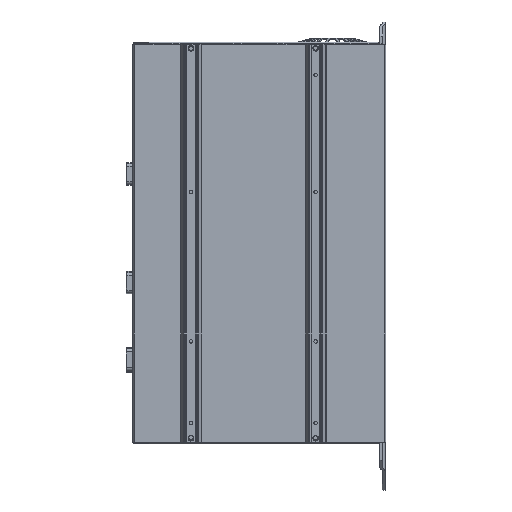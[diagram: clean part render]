
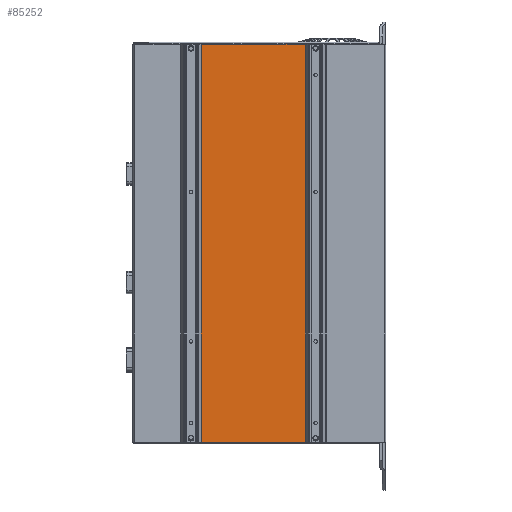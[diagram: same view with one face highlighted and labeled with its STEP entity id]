
A CAD part, front view. The second image highlights one B-rep face of the part: STEP entity #85252.
In plain terms, the highlighted planar face has unit normal (0, -1, 0).
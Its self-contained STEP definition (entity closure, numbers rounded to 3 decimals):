
#36856 = VERTEX_POINT ( 'NONE', #51932 ) ;
#36858 = VERTEX_POINT ( 'NONE', #51934 ) ;
#51932 = CARTESIAN_POINT ( 'NONE',  ( 135.597, 0., -143.7 ) ) ;
#51934 = CARTESIAN_POINT ( 'NONE',  ( 60.686, 0., -143.7 ) ) ;
#74835 = AXIS2_PLACEMENT_3D ( 'NONE', #111276, #111277, #111278 ) ;
#85252 = ADVANCED_FACE ( 'NONE', ( #96149 ), #111275, .F. ) ;
#91083 = EDGE_CURVE ( 'NONE', #36858, #36856, #97529, .T. ) ;
#91269 = EDGE_CURVE ( 'NONE', #36856, #100699, #144303, .T. ) ;
#91270 = EDGE_CURVE ( 'NONE', #100701, #100699, #144305, .T. ) ;
#91271 = EDGE_CURVE ( 'NONE', #100701, #36858, #144307, .T. ) ;
#94729 = EDGE_LOOP ( 'NONE', ( #109189, #109191, #109193, #109195 ) ) ;
#96149 = FACE_OUTER_BOUND ( 'NONE', #94729, .T. ) ;
#97529 = LINE ( 'NONE', #142484, #97537 ) ;
#97537 = VECTOR ( 'NONE', #142485, 1000. ) ;
#100699 = VERTEX_POINT ( 'NONE', #161949 ) ;
#100701 = VERTEX_POINT ( 'NONE', #161951 ) ;
#109189 = ORIENTED_EDGE ( 'NONE', *, *, #91083, .T. ) ;
#109191 = ORIENTED_EDGE ( 'NONE', *, *, #91269, .T. ) ;
#109193 = ORIENTED_EDGE ( 'NONE', *, *, #91270, .F. ) ;
#109195 = ORIENTED_EDGE ( 'NONE', *, *, #91271, .T. ) ;
#111275 = PLANE ( 'NONE',  #74835 ) ;
#111276 = CARTESIAN_POINT ( 'NONE',  ( 189.563, 0., 143.7 ) ) ;
#111277 = DIRECTION ( 'NONE',  ( 0., 1., 0. ) ) ;
#111278 = DIRECTION ( 'NONE',  ( -1., 0., 0. ) ) ;
#142484 = CARTESIAN_POINT ( 'NONE',  ( 189.563, 0., -143.7 ) ) ;
#142485 = DIRECTION ( 'NONE',  ( 1., 0., 0. ) ) ;
#143420 = CARTESIAN_POINT ( 'NONE',  ( 135.597, 0., 143.7 ) ) ;
#143422 = DIRECTION ( 'NONE',  ( 0., 0., 1. ) ) ;
#143425 = CARTESIAN_POINT ( 'NONE',  ( 189.563, 0., 143.7 ) ) ;
#143426 = DIRECTION ( 'NONE',  ( 1., 0., 0. ) ) ;
#143429 = CARTESIAN_POINT ( 'NONE',  ( 60.686, 0., 143.7 ) ) ;
#143431 = DIRECTION ( 'NONE',  ( 0., 0., -1. ) ) ;
#144303 = LINE ( 'NONE', #143420, #144304 ) ;
#144304 = VECTOR ( 'NONE', #143422, 1000. ) ;
#144305 = LINE ( 'NONE', #143425, #144306 ) ;
#144306 = VECTOR ( 'NONE', #143426, 1000. ) ;
#144307 = LINE ( 'NONE', #143429, #144308 ) ;
#144308 = VECTOR ( 'NONE', #143431, 1000. ) ;
#161949 = CARTESIAN_POINT ( 'NONE',  ( 135.597, 0., 143.7 ) ) ;
#161951 = CARTESIAN_POINT ( 'NONE',  ( 60.686, 0., 143.7 ) ) ;
